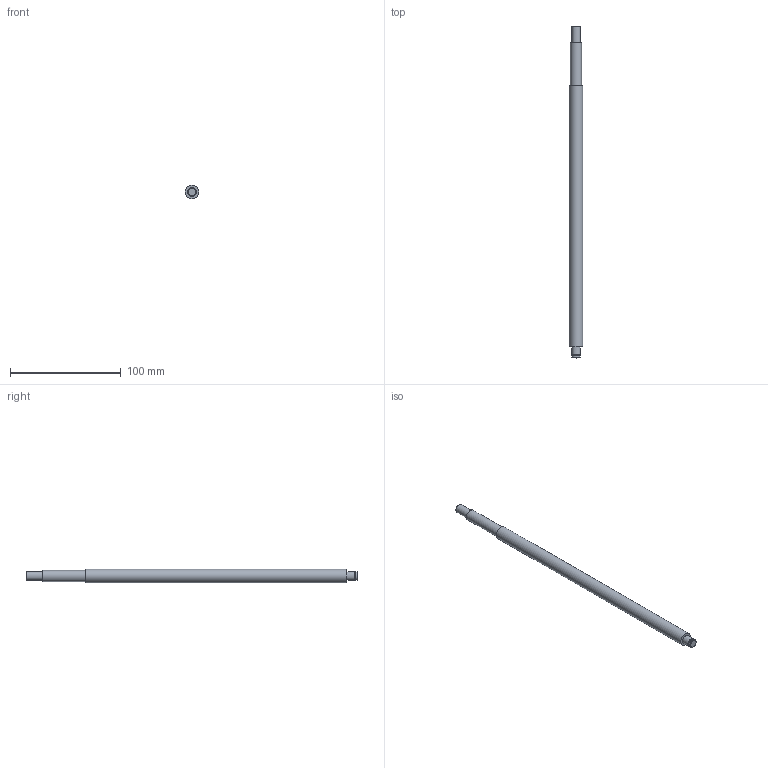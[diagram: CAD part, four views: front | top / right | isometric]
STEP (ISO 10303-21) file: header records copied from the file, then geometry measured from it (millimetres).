
FILE_DESCRIPTION(/* description */ (''),/* implementation_level */ '2;1');
FILE_NAME(/* name */ 'C:\Users\David\Desktop\stepFiles\Profilfuehrung\KUS1204x300.stp',/* time_stamp */ '2018-06-24T15:05:12+02:00',/* author */ ('David'),/* organization */ (''),/* preprocessor_version */ 'ST-DEVELOPER v17',/* originating_system */ 'Autodesk Inventor 2019',/* authorisation */ '');
FILE_SCHEMA (('AUTOMOTIVE_DESIGN { 1 0 10303 214 3 1 1 }'));
Length unit declared in the file: millimetre
Products named in the file (1): SFU1204xvariabel
Bounding box: 12 x 300 x 12 mm (x, y, z)
Volume: 31000.2 mm3; surface area: 10970 mm2
Topology: 1 solids, 1 shells, 15 faces, 34 edges, 26 vertices
Faces by surface type: plane 7, cylinder 6, cone 2
Full cylindrical faces by diameter (mm): 7.6 x1, 8 x3, 10 x1, 12 x1
Entity records: 493 total; most frequent: DIRECTION 92, CARTESIAN_POINT 76, ORIENTED_EDGE 68, AXIS2_PLACEMENT_3D 42, EDGE_CURVE 34, CIRCLE 26, VERTEX_POINT 26, EDGE_LOOP 20
